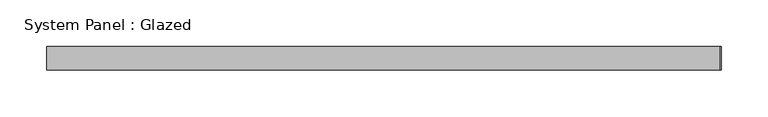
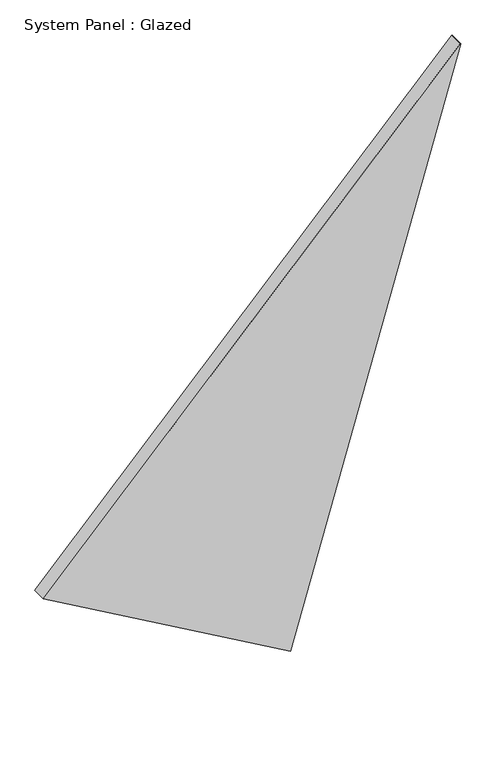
"""IFC4 building model written with IfcOpenShell, lengths in millimetres: plate geometry, System Panel : Glazed."""

from ifc_helpers import new_model, si_unit, frame, origin, place, context, project, spatial, polyline, outline, extrude, source, transform, mapped, element, save


def system_panel_glazed_789bb291(model_context):
    return source(origin(), model_context, "Body", "SweptSolid", [
        extrude(outline(polyline([(245.9089408, -362.0101584), (0.0, 66.3117266), (1009.8203224, 362.0101584), (1010.41649, 360.9717592), (245.9089408, -362.0101584)])), frame((0.0, -44.45, 0.0), z_axis=(0.0, 1.0, 0.0), x_axis=(0.0, 0.0, 1.0)), (0.0, 0.0, 1.0), 25.4),
    ])


if __name__ == "__main__":
    model = new_model("IFC4")
    model_context = context("Model", 3, world=origin())
    ifc_project = project(units=[si_unit("LENGTHUNIT", "METRE", prefix="MILLI")], contexts=[model_context])
    site = spatial("IfcSite", under=ifc_project)
    building = spatial("IfcBuilding", under=site)
    placement = place(None, origin())
    system_panel_glazed_shape = system_panel_glazed_789bb291(model_context)
    element("IfcPlate", 1, ObjectType="System Panel : Glazed", at=placement, inside=building, context=model_context, shape_type="MappedRepresentation", body=[
        mapped(system_panel_glazed_shape, transform((0.0, 0.0, 0.0), x_axis=(1.0, 0.0, 0.0), y_axis=(0.0, 1.0, 0.0), z_axis=(0.0, 0.0, 1.0))),
    ])
    save(model, "model.ifc")
